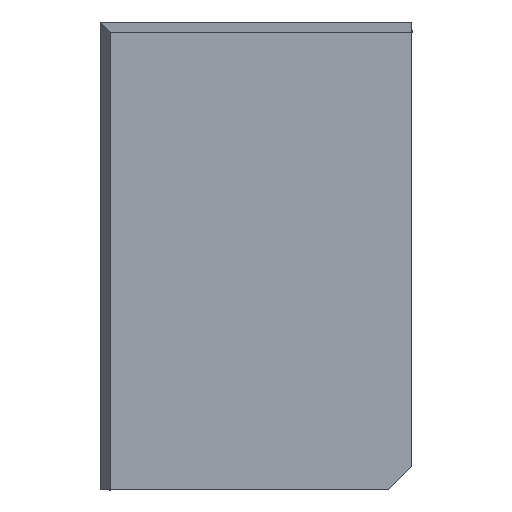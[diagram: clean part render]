
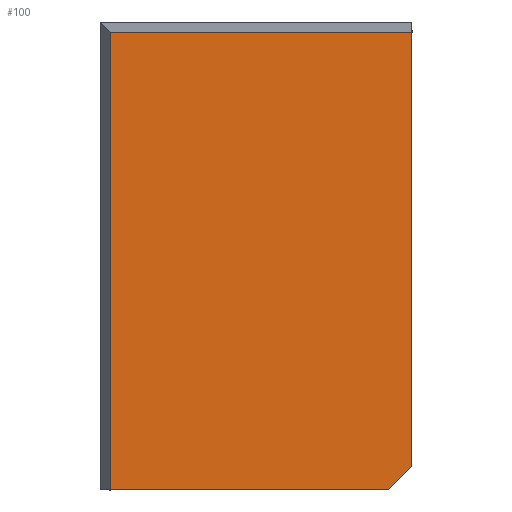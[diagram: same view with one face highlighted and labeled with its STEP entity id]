
A CAD part, left-side view. The second image highlights one B-rep face of the part: STEP entity #100.
In plain terms, the highlighted face is a extrusion surface.
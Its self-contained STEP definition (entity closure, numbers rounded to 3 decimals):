
#54=CARTESIAN_POINT('Control Point',(0.,0.,0.)) ;
#55=CARTESIAN_POINT('Control Point',(0.,0.,58.66)) ;
#59=CARTESIAN_POINT('Line Origine',(0.,19.33,58.66)) ;
#63=CARTESIAN_POINT('Vertex',(0.,0.,58.66)) ;
#65=CARTESIAN_POINT('Vertex',(0.,38.66,58.66)) ;
#68=CARTESIAN_POINT('Line Origine',(0.,38.66,29.33)) ;
#72=CARTESIAN_POINT('Vertex',(0.,38.66,0.)) ;
#75=CARTESIAN_POINT('Line Origine',(0.,19.33,0.)) ;
#79=CARTESIAN_POINT('Vertex',(0.,3.,0.)) ;
#83=CARTESIAN_POINT('Control Point',(0.,3.,0.)) ;
#84=CARTESIAN_POINT('Control Point',(0.,0.,3.)) ;
#85=CARTESIAN_POINT('Vertex',(0.,0.,3.)) ;
#88=CARTESIAN_POINT('Line Origine',(0.,0.,29.33)) ;
#56=DIRECTION('Vector Direction',(0.,1.,0.)) ;
#60=DIRECTION('Vector Direction',(0.,1.,0.)) ;
#69=DIRECTION('Vector Direction',(0.,0.,1.)) ;
#76=DIRECTION('Vector Direction',(0.,1.,0.)) ;
#89=DIRECTION('Vector Direction',(0.,0.,1.)) ;
#94=ORIENTED_EDGE('',*,*,#67,.T.) ;
#95=ORIENTED_EDGE('',*,*,#74,.T.) ;
#96=ORIENTED_EDGE('',*,*,#81,.T.) ;
#97=ORIENTED_EDGE('',*,*,#87,.T.) ;
#98=ORIENTED_EDGE('',*,*,#92,.T.) ;
#57=VECTOR('Extrusion Surface Vector',#56,1.) ;
#61=VECTOR('Line Direction',#60,1.) ;
#70=VECTOR('Line Direction',#69,1.) ;
#77=VECTOR('Line Direction',#76,1.) ;
#90=VECTOR('Line Direction',#89,1.) ;
#100=ADVANCED_FACE('Superficie.1',(#99),#58,.T.) ;
#53=B_SPLINE_CURVE_WITH_KNOTS('',1,(#54,#55),.UNSPECIFIED.,.F.,.U.,(2,2),(-29.33,29.33),.UNSPECIFIED.) ;
#82=B_SPLINE_CURVE_WITH_KNOTS('',1,(#83,#84),.UNSPECIFIED.,.F.,.U.,(2,2),(-2.121,2.121),.UNSPECIFIED.) ;
#67=EDGE_CURVE('',#64,#66,#62,.T.) ;
#74=EDGE_CURVE('',#66,#73,#71,.F.) ;
#81=EDGE_CURVE('',#73,#80,#78,.F.) ;
#87=EDGE_CURVE('',#80,#86,#82,.T.) ;
#92=EDGE_CURVE('',#86,#64,#91,.T.) ;
#93=EDGE_LOOP('',(#94,#95,#96,#97,#98)) ;
#99=FACE_OUTER_BOUND('',#93,.T.) ;
#62=LINE('Line',#59,#61) ;
#71=LINE('Line',#68,#70) ;
#78=LINE('Line',#75,#77) ;
#91=LINE('Line',#88,#90) ;
#58=SURFACE_OF_LINEAR_EXTRUSION('generated tabulated cylinder',#53,#57) ;
#64=VERTEX_POINT('',#63) ;
#66=VERTEX_POINT('',#65) ;
#73=VERTEX_POINT('',#72) ;
#80=VERTEX_POINT('',#79) ;
#86=VERTEX_POINT('',#85) ;
